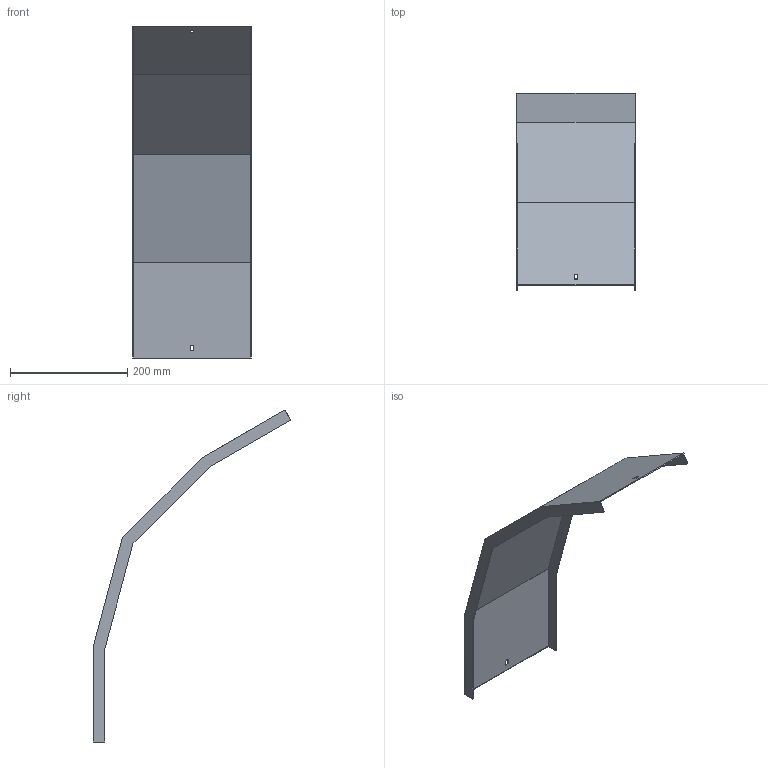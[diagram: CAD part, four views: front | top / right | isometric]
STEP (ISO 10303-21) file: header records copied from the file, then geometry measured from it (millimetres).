
FILE_DESCRIPTION (( 'STEP AP214' ), '1' );
FILE_NAME ('A2_41N3C200.step', '2025-02-21T10:39:11', ( '' ), ( '' ), 'SwSTEP 2.0', 'SolidWorks 2023', '' );
FILE_SCHEMA (( 'AUTOMOTIVE_DESIGN' ));
Length unit declared in the file: millimetre
Products named in the file (1): A2_41N3C200
Bounding box: 203 x 337.26 x 566.83 mm (x, y, z)
Volume: 254998 mm3; surface area: 342882.7 mm2
Topology: 1 solids, 1 shells, 30 faces, 84 edges, 56 vertices
Faces by surface type: plane 30
Entity records: 979 total; most frequent: CARTESIAN_POINT 171, ORIENTED_EDGE 168, DIRECTION 146, EDGE_CURVE 84, LINE 84, VECTOR 84, VERTEX_POINT 56, EDGE_LOOP 34
